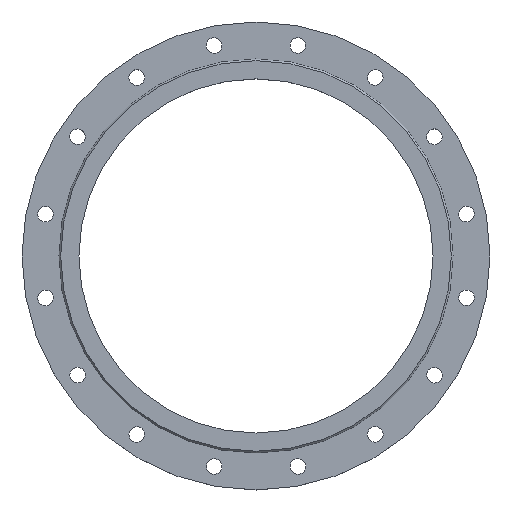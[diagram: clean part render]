
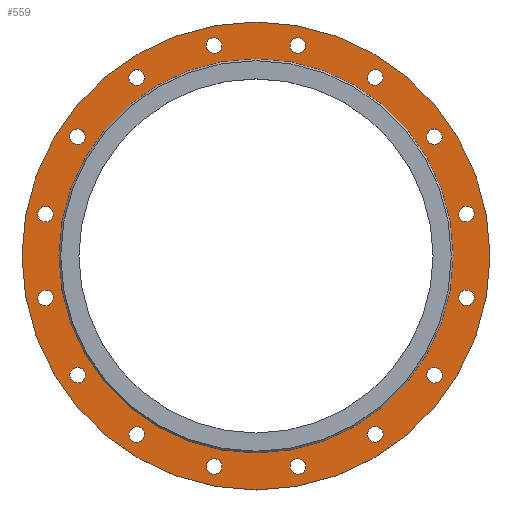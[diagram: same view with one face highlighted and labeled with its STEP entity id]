
A CAD part, top view. The second image highlights one B-rep face of the part: STEP entity #559.
In plain terms, the highlighted planar face has unit normal (0, 0, 1).
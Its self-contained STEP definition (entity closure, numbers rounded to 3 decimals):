
#15=FACE_BOUND('',#95,.T.);
#16=FACE_BOUND('',#96,.T.);
#17=FACE_BOUND('',#97,.T.);
#18=FACE_BOUND('',#98,.T.);
#19=FACE_BOUND('',#99,.T.);
#20=FACE_BOUND('',#100,.T.);
#21=FACE_BOUND('',#101,.T.);
#22=FACE_BOUND('',#102,.T.);
#23=FACE_BOUND('',#103,.T.);
#24=FACE_BOUND('',#104,.T.);
#25=FACE_BOUND('',#105,.T.);
#26=FACE_BOUND('',#106,.T.);
#27=FACE_BOUND('',#107,.T.);
#28=FACE_BOUND('',#108,.T.);
#29=FACE_BOUND('',#109,.T.);
#30=FACE_BOUND('',#110,.T.);
#31=FACE_BOUND('',#111,.T.);
#50=PLANE('',#656);
#72=FACE_OUTER_BOUND('',#94,.T.);
#94=EDGE_LOOP('',(#458,#459));
#95=EDGE_LOOP('',(#460));
#96=EDGE_LOOP('',(#461));
#97=EDGE_LOOP('',(#462));
#98=EDGE_LOOP('',(#463));
#99=EDGE_LOOP('',(#464));
#100=EDGE_LOOP('',(#465));
#101=EDGE_LOOP('',(#466));
#102=EDGE_LOOP('',(#467));
#103=EDGE_LOOP('',(#468));
#104=EDGE_LOOP('',(#469));
#105=EDGE_LOOP('',(#470));
#106=EDGE_LOOP('',(#471));
#107=EDGE_LOOP('',(#472));
#108=EDGE_LOOP('',(#473));
#109=EDGE_LOOP('',(#474));
#110=EDGE_LOOP('',(#475));
#111=EDGE_LOOP('',(#476,#477));
#176=CIRCLE('',#590,13.5);
#179=CIRCLE('',#594,13.5);
#182=CIRCLE('',#598,13.5);
#185=CIRCLE('',#602,13.5);
#188=CIRCLE('',#606,13.5);
#191=CIRCLE('',#610,13.5);
#194=CIRCLE('',#614,13.5);
#197=CIRCLE('',#618,13.5);
#200=CIRCLE('',#622,13.5);
#203=CIRCLE('',#626,13.5);
#206=CIRCLE('',#630,13.5);
#209=CIRCLE('',#634,13.5);
#212=CIRCLE('',#638,13.5);
#215=CIRCLE('',#642,13.5);
#218=CIRCLE('',#646,13.5);
#221=CIRCLE('',#650,13.5);
#224=CIRCLE('',#654,341.);
#225=CIRCLE('',#655,341.);
#226=CIRCLE('',#657,405.);
#227=CIRCLE('',#658,405.);
#235=VERTEX_POINT('',#861);
#238=VERTEX_POINT('',#869);
#241=VERTEX_POINT('',#877);
#244=VERTEX_POINT('',#885);
#247=VERTEX_POINT('',#893);
#250=VERTEX_POINT('',#901);
#253=VERTEX_POINT('',#909);
#256=VERTEX_POINT('',#917);
#259=VERTEX_POINT('',#925);
#262=VERTEX_POINT('',#933);
#265=VERTEX_POINT('',#941);
#268=VERTEX_POINT('',#949);
#271=VERTEX_POINT('',#957);
#274=VERTEX_POINT('',#965);
#277=VERTEX_POINT('',#973);
#280=VERTEX_POINT('',#981);
#283=VERTEX_POINT('',#989);
#284=VERTEX_POINT('',#991);
#285=VERTEX_POINT('',#995);
#286=VERTEX_POINT('',#996);
#296=EDGE_CURVE('',#235,#235,#176,.T.);
#300=EDGE_CURVE('',#238,#238,#179,.T.);
#304=EDGE_CURVE('',#241,#241,#182,.T.);
#308=EDGE_CURVE('',#244,#244,#185,.T.);
#312=EDGE_CURVE('',#247,#247,#188,.T.);
#316=EDGE_CURVE('',#250,#250,#191,.T.);
#320=EDGE_CURVE('',#253,#253,#194,.T.);
#324=EDGE_CURVE('',#256,#256,#197,.T.);
#328=EDGE_CURVE('',#259,#259,#200,.T.);
#332=EDGE_CURVE('',#262,#262,#203,.T.);
#336=EDGE_CURVE('',#265,#265,#206,.T.);
#340=EDGE_CURVE('',#268,#268,#209,.T.);
#344=EDGE_CURVE('',#271,#271,#212,.T.);
#348=EDGE_CURVE('',#274,#274,#215,.T.);
#352=EDGE_CURVE('',#277,#277,#218,.T.);
#356=EDGE_CURVE('',#280,#280,#221,.T.);
#360=EDGE_CURVE('',#284,#283,#224,.T.);
#361=EDGE_CURVE('',#283,#284,#225,.T.);
#362=EDGE_CURVE('',#285,#286,#226,.T.);
#363=EDGE_CURVE('',#286,#285,#227,.T.);
#458=ORIENTED_EDGE('',*,*,#362,.F.);
#459=ORIENTED_EDGE('',*,*,#363,.F.);
#460=ORIENTED_EDGE('',*,*,#296,.T.);
#461=ORIENTED_EDGE('',*,*,#300,.T.);
#462=ORIENTED_EDGE('',*,*,#304,.T.);
#463=ORIENTED_EDGE('',*,*,#308,.T.);
#464=ORIENTED_EDGE('',*,*,#312,.T.);
#465=ORIENTED_EDGE('',*,*,#316,.T.);
#466=ORIENTED_EDGE('',*,*,#320,.T.);
#467=ORIENTED_EDGE('',*,*,#324,.T.);
#468=ORIENTED_EDGE('',*,*,#328,.T.);
#469=ORIENTED_EDGE('',*,*,#332,.T.);
#470=ORIENTED_EDGE('',*,*,#336,.T.);
#471=ORIENTED_EDGE('',*,*,#340,.T.);
#472=ORIENTED_EDGE('',*,*,#344,.T.);
#473=ORIENTED_EDGE('',*,*,#348,.T.);
#474=ORIENTED_EDGE('',*,*,#352,.T.);
#475=ORIENTED_EDGE('',*,*,#356,.T.);
#476=ORIENTED_EDGE('',*,*,#360,.T.);
#477=ORIENTED_EDGE('',*,*,#361,.T.);
#559=ADVANCED_FACE('',(#72,#15,#16,#17,#18,#19,#20,#21,#22,#23,#24,#25,
#26,#27,#28,#29,#30,#31),#50,.F.);
#590=AXIS2_PLACEMENT_3D('',#863,#682,#683);
#594=AXIS2_PLACEMENT_3D('',#871,#691,#692);
#598=AXIS2_PLACEMENT_3D('',#879,#700,#701);
#602=AXIS2_PLACEMENT_3D('',#887,#709,#710);
#606=AXIS2_PLACEMENT_3D('',#895,#718,#719);
#610=AXIS2_PLACEMENT_3D('',#903,#727,#728);
#614=AXIS2_PLACEMENT_3D('',#911,#736,#737);
#618=AXIS2_PLACEMENT_3D('',#919,#745,#746);
#622=AXIS2_PLACEMENT_3D('',#927,#754,#755);
#626=AXIS2_PLACEMENT_3D('',#935,#763,#764);
#630=AXIS2_PLACEMENT_3D('',#943,#772,#773);
#634=AXIS2_PLACEMENT_3D('',#951,#781,#782);
#638=AXIS2_PLACEMENT_3D('',#959,#790,#791);
#642=AXIS2_PLACEMENT_3D('',#967,#799,#800);
#646=AXIS2_PLACEMENT_3D('',#975,#808,#809);
#650=AXIS2_PLACEMENT_3D('',#983,#817,#818);
#654=AXIS2_PLACEMENT_3D('',#992,#826,#827);
#655=AXIS2_PLACEMENT_3D('',#993,#828,#829);
#656=AXIS2_PLACEMENT_3D('',#994,#830,#831);
#657=AXIS2_PLACEMENT_3D('',#997,#832,#833);
#658=AXIS2_PLACEMENT_3D('',#998,#834,#835);
#682=DIRECTION('center_axis',(0.,0.,-1.));
#683=DIRECTION('ref_axis',(-0.924,0.383,0.));
#691=DIRECTION('center_axis',(0.,0.,-1.));
#692=DIRECTION('ref_axis',(-0.707,0.707,0.));
#700=DIRECTION('center_axis',(0.,0.,-1.));
#701=DIRECTION('ref_axis',(-0.383,0.924,0.));
#709=DIRECTION('center_axis',(0.,0.,-1.));
#710=DIRECTION('ref_axis',(0.,1.,0.));
#718=DIRECTION('center_axis',(0.,0.,-1.));
#719=DIRECTION('ref_axis',(0.383,0.924,0.));
#727=DIRECTION('center_axis',(0.,0.,-1.));
#728=DIRECTION('ref_axis',(0.707,0.707,0.));
#736=DIRECTION('center_axis',(0.,0.,-1.));
#737=DIRECTION('ref_axis',(0.924,0.383,0.));
#745=DIRECTION('center_axis',(0.,0.,-1.));
#746=DIRECTION('ref_axis',(1.,0.,0.));
#754=DIRECTION('center_axis',(0.,0.,-1.));
#755=DIRECTION('ref_axis',(0.924,-0.383,0.));
#763=DIRECTION('center_axis',(0.,0.,-1.));
#764=DIRECTION('ref_axis',(0.707,-0.707,0.));
#772=DIRECTION('center_axis',(0.,0.,-1.));
#773=DIRECTION('ref_axis',(0.383,-0.924,0.));
#781=DIRECTION('center_axis',(0.,0.,-1.));
#782=DIRECTION('ref_axis',(0.,-1.,0.));
#790=DIRECTION('center_axis',(0.,0.,-1.));
#791=DIRECTION('ref_axis',(-0.383,-0.924,0.));
#799=DIRECTION('center_axis',(0.,0.,-1.));
#800=DIRECTION('ref_axis',(-0.707,-0.707,0.));
#808=DIRECTION('center_axis',(0.,0.,-1.));
#809=DIRECTION('ref_axis',(-0.924,-0.383,0.));
#817=DIRECTION('center_axis',(0.,0.,-1.));
#818=DIRECTION('ref_axis',(-1.,0.,0.));
#826=DIRECTION('center_axis',(0.,0.,-1.));
#827=DIRECTION('ref_axis',(1.,0.,0.));
#828=DIRECTION('center_axis',(0.,0.,-1.));
#829=DIRECTION('ref_axis',(1.,0.,0.));
#830=DIRECTION('center_axis',(0.,0.,-1.));
#831=DIRECTION('ref_axis',(-1.,0.,0.));
#832=DIRECTION('center_axis',(0.,0.,-1.));
#833=DIRECTION('ref_axis',(1.,0.,0.));
#834=DIRECTION('center_axis',(0.,0.,-1.));
#835=DIRECTION('ref_axis',(1.,0.,0.));
#861=CARTESIAN_POINT('',(-193.922,-314.057,-3.));
#863=CARTESIAN_POINT('Origin',(-206.394,-308.891,-3.));
#869=CARTESIAN_POINT('',(-299.345,-215.94,-3.));
#871=CARTESIAN_POINT('Origin',(-308.891,-206.394,-3.));
#877=CARTESIAN_POINT('',(-359.196,-84.948,-3.));
#879=CARTESIAN_POINT('Origin',(-364.362,-72.476,-3.));
#885=CARTESIAN_POINT('',(-364.362,58.976,-3.));
#887=CARTESIAN_POINT('Origin',(-364.362,72.476,-3.));
#893=CARTESIAN_POINT('',(-314.057,193.922,-3.));
#895=CARTESIAN_POINT('Origin',(-308.891,206.394,-3.));
#901=CARTESIAN_POINT('',(-215.94,299.345,-3.));
#903=CARTESIAN_POINT('Origin',(-206.394,308.891,-3.));
#909=CARTESIAN_POINT('',(-84.948,359.196,-3.));
#911=CARTESIAN_POINT('Origin',(-72.476,364.362,-3.));
#917=CARTESIAN_POINT('',(58.976,364.362,-3.));
#919=CARTESIAN_POINT('Origin',(72.476,364.362,-3.));
#925=CARTESIAN_POINT('',(193.922,314.057,-3.));
#927=CARTESIAN_POINT('Origin',(206.394,308.891,-3.));
#933=CARTESIAN_POINT('',(299.345,215.94,-3.));
#935=CARTESIAN_POINT('Origin',(308.891,206.394,-3.));
#941=CARTESIAN_POINT('',(359.196,84.948,-3.));
#943=CARTESIAN_POINT('Origin',(364.362,72.476,-3.));
#949=CARTESIAN_POINT('',(364.362,-58.976,-3.));
#951=CARTESIAN_POINT('Origin',(364.362,-72.476,-3.));
#957=CARTESIAN_POINT('',(314.057,-193.922,-3.));
#959=CARTESIAN_POINT('Origin',(308.891,-206.394,-3.));
#965=CARTESIAN_POINT('',(215.94,-299.345,-3.));
#967=CARTESIAN_POINT('Origin',(206.394,-308.891,-3.));
#973=CARTESIAN_POINT('',(84.948,-359.196,-3.));
#975=CARTESIAN_POINT('Origin',(72.476,-364.362,-3.));
#981=CARTESIAN_POINT('',(-58.976,-364.362,-3.));
#983=CARTESIAN_POINT('Origin',(-72.476,-364.362,-3.));
#989=CARTESIAN_POINT('',(-341.,0.,-3.));
#991=CARTESIAN_POINT('',(341.,0.,-3.));
#992=CARTESIAN_POINT('Origin',(0.,0.,-3.));
#993=CARTESIAN_POINT('Origin',(0.,0.,-3.));
#994=CARTESIAN_POINT('Origin',(341.,0.,-3.));
#995=CARTESIAN_POINT('',(405.,0.,-3.));
#996=CARTESIAN_POINT('',(-405.,0.,-3.));
#997=CARTESIAN_POINT('Origin',(0.,0.,-3.));
#998=CARTESIAN_POINT('Origin',(0.,0.,-3.));
